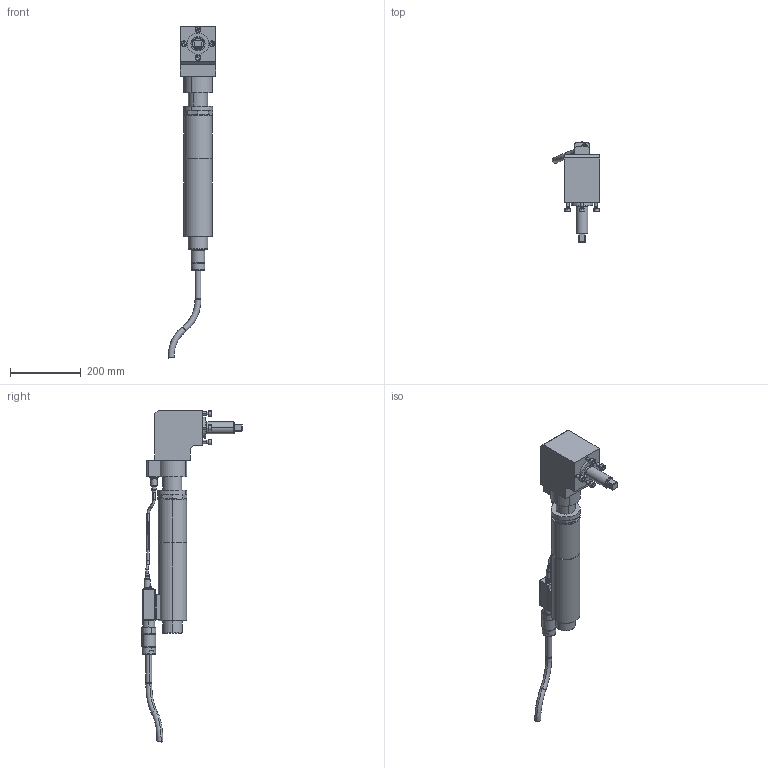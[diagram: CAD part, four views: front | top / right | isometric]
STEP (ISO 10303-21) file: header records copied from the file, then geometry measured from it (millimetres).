
FILE_DESCRIPTION(('CATIA V5 STEP'),'2;1');
FILE_NAME('O:\3D-Schrauber\stp\7920507_ECR326_DR300_AW325_AllCATPart.stp','2010-05-05T11:09:51+00:00',('none'),('none'),'CATIA Version 5 Release 19 SP 3 (IN-10)','CATIA V5 STEP AP214','none');
FILE_SCHEMA(('AUTOMOTIVE_DESIGN { 1 0 10303 214 1 1 1 1 }'));
Length unit declared in the file: millimetre
Products named in the file (1): 7920507_ECR326_DR300_AW325_AllCATPart
Bounding box: 133.82 x 283.48 x 935.86 mm (x, y, z)
Volume: 4613611.7 mm3; surface area: 356929.3 mm2
Topology: 18 solids, 18 shells, 435 faces, 957 edges, 598 vertices
Faces by surface type: plane 176, cylinder 151, cone 68, torus 40
Entity records: 11389 total; most frequent: CARTESIAN_POINT 2262, ORIENTED_EDGE 1898, DIRECTION 1573, EDGE_CURVE 949, AXIS2_PLACEMENT_3D 797, VERTEX_POINT 598, EDGE_LOOP 483, CIRCLE 460
